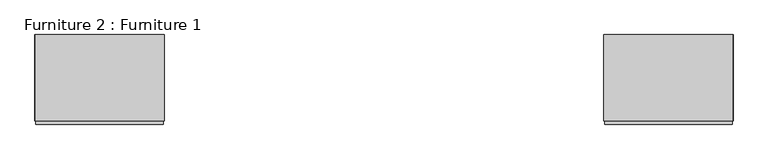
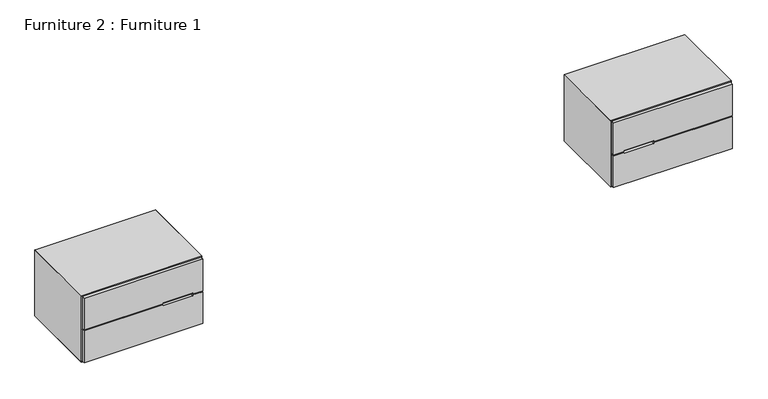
"""IFC4 building model written with IfcOpenShell, lengths in millimetres: furniture geometry, Furniture 2 : Furniture 1."""

from ifc_helpers import new_model, si_unit, frame, origin, place, context, project, spatial, polyline, outline, extrude, faceted_brep, source, transform, mapped, element, save


def furniture_2_furniture_1_6abcd909(model_context):
    return source(origin(), model_context, "Body", "SolidModel", [
        extrude(outline(polyline([(282.4055339, 1658.5768874), (851.7453294, 1658.5768874), (851.7453294, 1642.5768874), (282.4055339, 1642.5768874), (282.4055339, 1658.5768874)])), frame((0.0, 0.0, 16.0), z_axis=(0.0, 0.0, 1.0), x_axis=(1.0, 0.0, 0.0)), (0.0, 0.0, 1.0), 318.0),
        extrude(outline(polyline([(177.5, 271.4055339), (177.5, 321.4055339), (183.0, 321.4055339), (183.0, 471.4055339), (177.5, 471.4055339), (177.5, 862.7453294), (345.0, 862.7453294), (345.0, 271.4055339), (177.5, 271.4055339)])), frame((0.0, 1242.5768874, 0.0), z_axis=(0.0, 1.0, 0.0), x_axis=(0.0, 0.0, 1.0)), (0.0, 0.0, 1.0), 16.0),
        extrude(outline(polyline([(172.5, 862.7453294), (172.5, 471.4055339), (167.0, 471.4055339), (167.0, 321.4055339), (172.5, 321.4055339), (172.5, 271.4055339), (5.0, 271.4055339), (5.0, 862.7453294), (172.5, 862.7453294)])), frame((0.0, 1242.5768874, 0.0), z_axis=(0.0, 1.0, 0.0), x_axis=(0.0, 0.0, 1.0)), (0.0, 0.0, 1.0), 16.0),
        extrude(outline(polyline([(0.7071068, 266.4055339), (16.7071068, 282.4055339), (333.2928932, 282.4055339), (349.2928932, 266.4055339), (0.7071068, 266.4055339)])), frame((0.0, 1258.5768874, 0.0), z_axis=(0.0, 1.0, 0.0), x_axis=(0.0, 0.0, 1.0)), (0.0, 0.0, 1.0), 400.0),
        extrude(outline(polyline([(0.0, 267.1126407), (0.0, 867.0382226), (16.0, 851.0382226), (16.0, 283.1126407), (0.0, 267.1126407)])), frame((0.0, 1258.5768874, 0.0), z_axis=(0.0, 1.0, 0.0), x_axis=(0.0, 0.0, 1.0)), (0.0, 0.0, 1.0), 400.0),
        extrude(outline(polyline([(350.0, 267.1126407), (334.0, 283.1126407), (334.0, 851.0382226), (350.0, 867.0382226), (350.0, 267.1126407)])), frame((0.0, 1258.5768874, 0.0), z_axis=(0.0, 1.0, 0.0), x_axis=(0.0, 0.0, 1.0)), (0.0, 0.0, 1.0), 400.0),
        extrude(outline(polyline([(0.7071068, 867.7453294), (349.2928932, 867.7453294), (333.2928932, 851.7453294), (16.7071068, 851.7453294), (0.7071068, 867.7453294)])), frame((0.0, 1258.5768874, 0.0), z_axis=(0.0, 1.0, 0.0), x_axis=(0.0, 0.0, 1.0)), (0.0, 0.0, 1.0), 400.0),
        extrude(outline(polyline([(850.7453294, 1258.5768874), (283.4055339, 1258.5768874), (283.4055339, 1658.5768874), (850.7453294, 1658.5768874), (850.7453294, 1258.5768874)])), frame((0.0, 0.0, 167.0), z_axis=(0.0, 0.0, 1.0), x_axis=(1.0, 0.0, 0.0)), (0.0, 0.0, 1.0), 16.0),
        faceted_brep([(-1787.5480538, 1658.5768874, 16.0), (-1788.2551606, 1658.5768874, 16.0), (-1772.2551606, 1658.5768874, 0.0), (-2372.1807425, 1658.5768874, 0.0), (-2356.1807425, 1658.5768874, 16.0), (-2356.8878493, 1658.5768874, 16.0), (-2356.8878493, 1658.5768874, 16.7071068), (-2372.8878493, 1658.5768874, 0.7071068), (-2372.8878493, 1658.5768874, 349.2928932), (-2356.8878493, 1658.5768874, 333.2928932), (-2356.8878493, 1658.5768874, 334.0), (-2356.1807425, 1658.5768874, 334.0), (-2372.1807425, 1658.5768874, 350.0), (-1772.2551606, 1658.5768874, 350.0), (-1788.2551606, 1658.5768874, 334.0), (-1787.5480538, 1658.5768874, 334.0), (-1787.5480538, 1658.5768874, 333.2928932), (-1771.5480538, 1658.5768874, 349.2928932), (-1771.5480538, 1658.5768874, 0.7071068), (-1787.5480538, 1658.5768874, 16.7071068), (-1787.5480538, 1642.5768874, 333.2928932), (-1787.5480538, 1642.5768874, 334.0), (-1788.2551606, 1642.5768874, 334.0), (-2356.1807425, 1642.5768874, 334.0), (-2356.8878493, 1642.5768874, 334.0), (-2356.8878493, 1642.5768874, 333.2928932), (-2356.8878493, 1642.5768874, 16.7071068), (-2356.8878493, 1642.5768874, 16.0), (-2356.1807425, 1642.5768874, 16.0), (-1788.2551606, 1642.5768874, 16.0), (-1787.5480538, 1642.5768874, 16.0), (-1787.5480538, 1642.5768874, 16.7071068), (-2355.8878493, 1642.5768874, 183.0), (-1788.5480538, 1642.5768874, 183.0), (-1788.5480538, 1642.5768874, 167.0), (-2355.8878493, 1642.5768874, 167.0), (-1771.5480538, 1258.5768874, 0.7071068), (-1771.5480538, 1258.5768874, 349.2928932), (-1787.5480538, 1258.5768874, 333.2928932), (-1787.5480538, 1258.5768874, 16.7071068), (-1772.2551606, 1258.5768874, 0.0), (-1788.2551606, 1258.5768874, 16.0), (-2356.1807425, 1258.5768874, 16.0), (-2372.1807425, 1258.5768874, 0.0), (-1772.2551606, 1258.5768874, 350.0), (-2372.1807425, 1258.5768874, 350.0), (-2356.1807425, 1258.5768874, 334.0), (-1788.2551606, 1258.5768874, 334.0), (-2372.8878493, 1258.5768874, 0.7071068), (-2356.8878493, 1258.5768874, 16.7071068), (-2356.8878493, 1258.5768874, 333.2928932), (-2372.8878493, 1258.5768874, 349.2928932), (-1788.5480538, 1258.5768874, 183.0), (-2355.8878493, 1258.5768874, 183.0), (-2355.8878493, 1258.5768874, 167.0), (-1788.5480538, 1258.5768874, 167.0)], [[[0, 1, 2, 3, 4, 5, 6, 7, 8, 9, 10, 11, 12, 13, 14, 15, 16, 17, 18, 19]], [[20, 21, 22, 23, 24, 25, 26, 27, 28, 29, 30, 31], [32, 33, 34, 35]], [[0, 30, 29, 1]], [[27, 5, 4, 28]], [[5, 27, 26, 6]], [[24, 10, 9, 25]], [[10, 24, 23, 11]], [[21, 15, 14, 22]], [[30, 0, 19, 31]], [[15, 21, 20, 16]], [[36, 37, 38, 39]], [[40, 41, 42, 43]], [[44, 45, 46, 47]], [[48, 49, 50, 51]], [[52, 53, 54, 55]], [[37, 36, 18, 17]], [[38, 37, 17, 16, 20]], [[39, 38, 20, 31]], [[36, 39, 31, 19, 18]], [[41, 40, 2, 1, 29]], [[42, 41, 29, 28]], [[43, 42, 28, 4, 3]], [[40, 43, 3, 2]], [[45, 44, 13, 12]], [[46, 45, 12, 11, 23]], [[47, 46, 23, 22]], [[44, 47, 22, 14, 13]], [[49, 48, 7, 6, 26]], [[50, 49, 26, 25]], [[51, 50, 25, 9, 8]], [[48, 51, 8, 7]], [[53, 52, 33, 32]], [[54, 53, 32, 35]], [[55, 54, 35, 34]], [[52, 55, 34, 33]]]),
        extrude(outline(polyline([(177.5, -1776.5480538), (345.0, -1776.5480538), (345.0, -2367.8878493), (177.5, -2367.8878493), (177.5, -1976.5480538), (183.0, -1976.5480538), (183.0, -1826.5480538), (177.5, -1826.5480538), (177.5, -1776.5480538)])), frame((0.0, 1242.5768874, 0.0), z_axis=(0.0, 1.0, 0.0), x_axis=(0.0, 0.0, 1.0)), (0.0, 0.0, 1.0), 16.0),
        extrude(outline(polyline([(172.5, -2367.8878493), (5.0, -2367.8878493), (5.0, -1776.5480538), (172.5, -1776.5480538), (172.5, -1826.5480538), (167.0, -1826.5480538), (167.0, -1976.5480538), (172.5, -1976.5480538), (172.5, -2367.8878493)])), frame((0.0, 1242.5768874, 0.0), z_axis=(0.0, 1.0, 0.0), x_axis=(0.0, 0.0, 1.0)), (0.0, 0.0, 1.0), 16.0),
    ])


if __name__ == "__main__":
    model = new_model("IFC4")
    model_context = context("Model", 3, world=origin())
    ifc_project = project(units=[si_unit("LENGTHUNIT", "METRE", prefix="MILLI")], contexts=[model_context])
    site = spatial("IfcSite", under=ifc_project)
    building = spatial("IfcBuilding", under=site)
    placement = place(None, origin())
    furniture_2_furniture_1_shape = furniture_2_furniture_1_6abcd909(model_context)
    element("IfcFurniture", 1, ObjectType="Furniture 2 : Furniture 1", at=placement, inside=building, context=model_context, shape_type="MappedRepresentation", body=[
        mapped(furniture_2_furniture_1_shape, transform((0.0, 0.0, 0.0), x_axis=(1.0, 0.0, 0.0), y_axis=(0.0, 1.0, 0.0), z_axis=(0.0, 0.0, 1.0))),
    ])
    save(model, "model.ifc")
